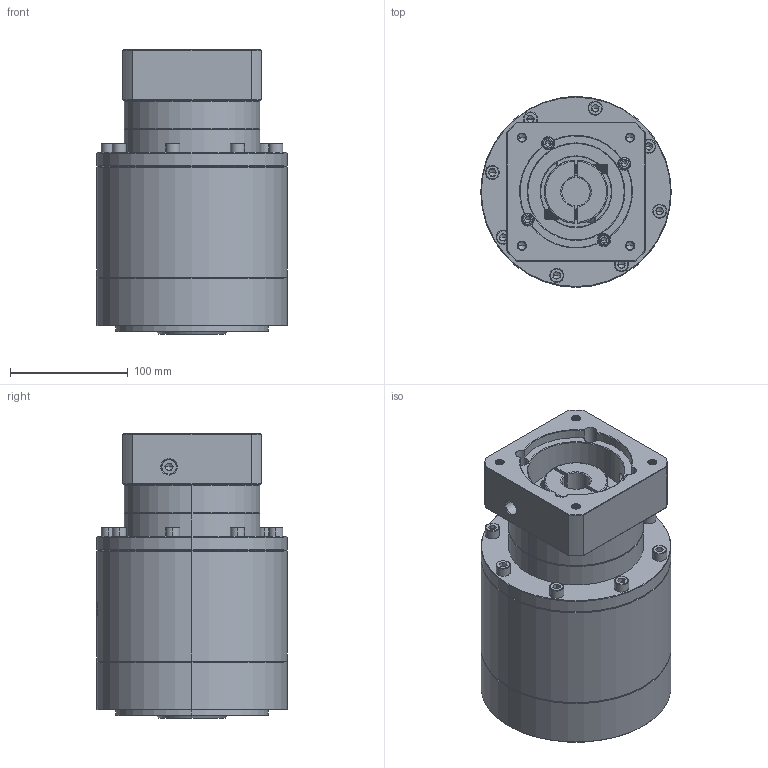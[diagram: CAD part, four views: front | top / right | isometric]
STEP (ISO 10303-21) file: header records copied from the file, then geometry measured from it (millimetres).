
FILE_DESCRIPTION (( 'STEP AP214' ), '1' );
FILE_NAME ('ZE160A-K35-L3-P2-24-95-130-M8.step', '2023-09-04T07:05:06', ( '' ), ( '' ), 'SwSTEP 2.0', 'SolidWorks 2016', '' );
FILE_SCHEMA (( 'AUTOMOTIVE_DESIGN' ));
Length unit declared in the file: millimetre
Products named in the file (1): ZE160A-K35-L3-P2-24-95-130-M8
Bounding box: 162 x 162 x 241.7 mm (x, y, z)
Volume: 3847718.2 mm3; surface area: 255816.7 mm2
Topology: 6 solids, 6 shells, 2496 faces, 6632 edges, 4253 vertices
Faces by surface type: plane 1107, cylinder 571, bspline 414, cone 348, torus 56
Entity records: 144609 total; most frequent: CARTESIAN_POINT 61025, ORIENTED_EDGE 13144, DIRECTION 9786, EDGE_CURVE 6572, VERTEX_POINT 4253, VECTOR 3450, LINE 3450, AXIS2_PLACEMENT_3D 3168
